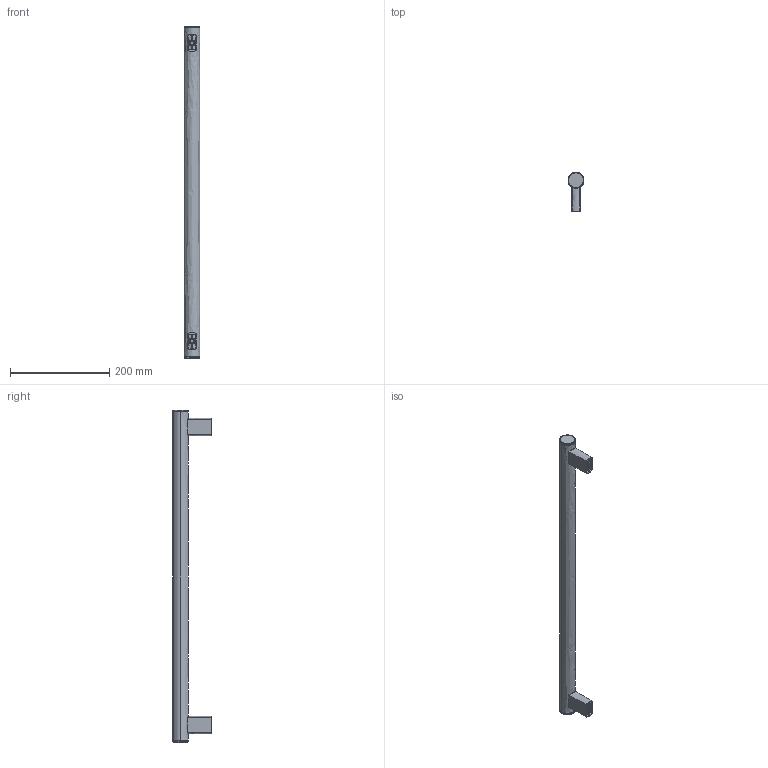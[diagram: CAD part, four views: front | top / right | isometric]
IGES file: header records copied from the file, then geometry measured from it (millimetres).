
Start section: SolidWorks IGES file using analytic representation for surfaces
Global section: file name: C:\Documents and Settings\Deathkiller\桌面\3D IGES\U型把手\MS-737-2 sus\p=600.IGS; native system: SolidWorks 2006 by SolidWorks Corporation; preprocessor: SolidWorks 2006 by SolidWorks Corporation; author: Deathkiller; date: 080624.131526; units: millimetre
Bounding box: 31.8 x 77.9 x 668 mm (x, y, z)
Surface area: 155284.9 mm2 (no closed solid volume)
Topology: 0 solids, 0 shells, 190 faces, 5022 edges, 5022 vertices
Faces by surface type: revolution 142, bspline 48
